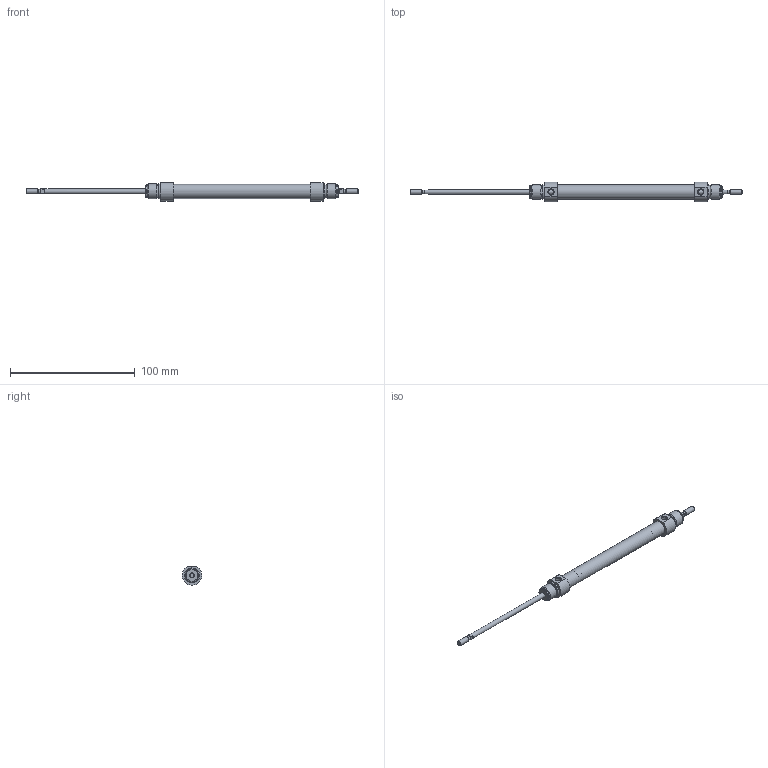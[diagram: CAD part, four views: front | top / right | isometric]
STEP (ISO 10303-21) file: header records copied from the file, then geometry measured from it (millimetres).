
FILE_DESCRIPTION( ( 'STEP AP203' ), '1' );
FILE_NAME( '//expscmdclustefs.cadenas.external/client_exchange/iodir/jobs/output/wkb68274492_no0/STEP/M101-010-0080-M__0__2_03.stp', ' ', ( ' ' ), ( ' ' ), 'PSStep 15.0.47', 'PARTsolutions', ' ' );
FILE_SCHEMA( ( 'CONFIG_CONTROL_DESIGN' ) );
Length unit declared in the file: millimetre
Products named in the file (3): M101-010-0080-M [0]; HI_M101-010-0080-M-[0]-z; HI_M101-010-0080-M-[0]-k
Assembly tree (2 placements, depth 2):
  M101-010-0080-M [0]
    HI_M101-010-0080-M-[0]-z
    HI_M101-010-0080-M-[0]-k
Bounding box: 266 x 15.77 x 14.87 mm (x, y, z)
Volume: 13360.3 mm3; surface area: 13642.6 mm2
Topology: 2 solids, 2 shells, 71 faces, 145 edges, 88 vertices
Faces by surface type: plane 32, cylinder 23, cone 14, torus 2
Full cylindrical faces by diameter (mm): 3.141 x2, 4 x6, 4.134 x2, 10 x2, 10.466 x4, 11.3 x1, 12 x4
Entity records: 1838 total; most frequent: CARTESIAN_POINT 358, DIRECTION 312, ORIENTED_EDGE 212, AXIS2_PLACEMENT_3D 140, EDGE_LOOP 120, EDGE_CURVE 106, FACE_OUTER_BOUND 94, VERTEX_POINT 82
